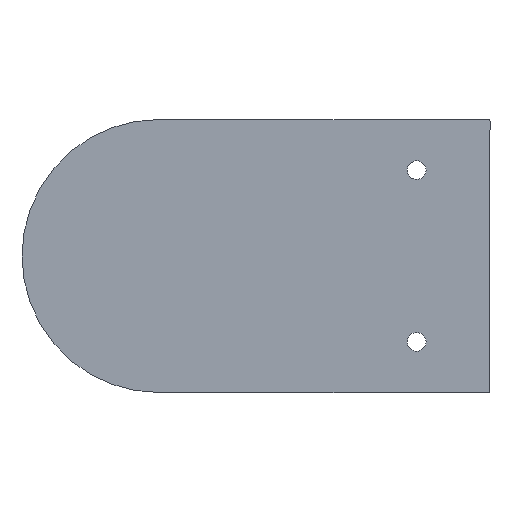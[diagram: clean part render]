
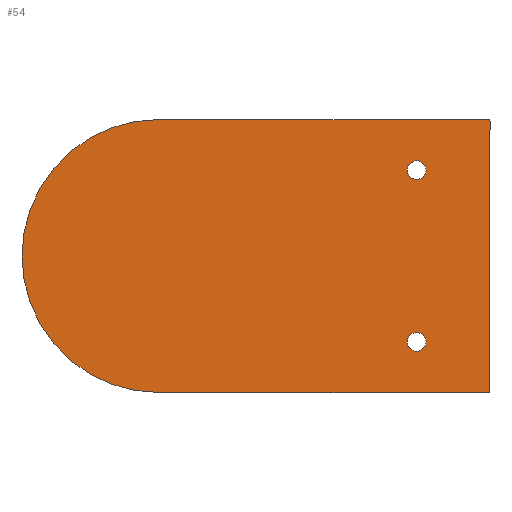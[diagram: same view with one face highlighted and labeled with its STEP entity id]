
A CAD part, left-side view. The second image highlights one B-rep face of the part: STEP entity #54.
In plain terms, the highlighted planar face has unit normal (-1, 0, 0).
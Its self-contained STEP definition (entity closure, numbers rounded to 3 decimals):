
#8 = CARTESIAN_POINT ( 'NONE',  ( 0., 42.5, -17.5 ) ) ;
#9 = VERTEX_POINT ( 'NONE', #72 ) ;
#12 = VERTEX_POINT ( 'NONE', #324 ) ;
#16 = CIRCLE ( 'NONE', #367, 1.2 ) ;
#23 = LINE ( 'NONE', #29, #223 ) ;
#29 = CARTESIAN_POINT ( 'NONE',  ( 0., 0.2, -17.5 ) ) ;
#33 = CARTESIAN_POINT ( 'NONE',  ( 0., 0., 17.3 ) ) ;
#36 = DIRECTION ( 'NONE',  ( 0., 0., -1. ) ) ;
#38 = VERTEX_POINT ( 'NONE', #304 ) ;
#40 = ORIENTED_EDGE ( 'NONE', *, *, #258, .F. ) ;
#42 = FACE_OUTER_BOUND ( 'NONE', #331, .T. ) ;
#48 = DIRECTION ( 'NONE',  ( 1., 0., 0. ) ) ;
#54 = ADVANCED_FACE ( 'NONE', ( #42, #190, #360 ), #107, .F. ) ;
#55 = DIRECTION ( 'NONE',  ( 1., 0., 0. ) ) ;
#56 = CARTESIAN_POINT ( 'NONE',  ( 0., 0.2, -17.3 ) ) ;
#58 = EDGE_CURVE ( 'NONE', #266, #356, #154, .T. ) ;
#63 = CARTESIAN_POINT ( 'NONE',  ( 0., 0.2, -17.5 ) ) ;
#64 = EDGE_CURVE ( 'NONE', #12, #266, #129, .T. ) ;
#66 = DIRECTION ( 'NONE',  ( 0., 0., -1. ) ) ;
#68 = ORIENTED_EDGE ( 'NONE', *, *, #74, .F. ) ;
#72 = CARTESIAN_POINT ( 'NONE',  ( 0., 9.4, -12.203 ) ) ;
#74 = EDGE_CURVE ( 'NONE', #159, #12, #295, .T. ) ;
#76 = DIRECTION ( 'NONE',  ( 1., 0., 0. ) ) ;
#81 = AXIS2_PLACEMENT_3D ( 'NONE', #142, #48, #109 ) ;
#90 = DIRECTION ( 'NONE',  ( 0., 0., -1. ) ) ;
#94 = EDGE_CURVE ( 'NONE', #336, #302, #23, .T. ) ;
#96 = DIRECTION ( 'NONE',  ( 1., 0., 0. ) ) ;
#102 = EDGE_LOOP ( 'NONE', ( #158 ) ) ;
#107 = PLANE ( 'NONE',  #355 ) ;
#108 = VECTOR ( 'NONE', #236, 1000. ) ;
#109 = DIRECTION ( 'NONE',  ( 0., 0., -1. ) ) ;
#124 = DIRECTION ( 'NONE',  ( 1., 0., 0. ) ) ;
#129 = CIRCLE ( 'NONE', #180, 0.2 ) ;
#130 = CIRCLE ( 'NONE', #341, 0.2 ) ;
#142 = CARTESIAN_POINT ( 'NONE',  ( 0., 9.4, 11.003 ) ) ;
#154 = LINE ( 'NONE', #263, #108 ) ;
#158 = ORIENTED_EDGE ( 'NONE', *, *, #255, .T. ) ;
#159 = VERTEX_POINT ( 'NONE', #366 ) ;
#162 = ORIENTED_EDGE ( 'NONE', *, *, #221, .T. ) ;
#176 = EDGE_CURVE ( 'NONE', #38, #38, #240, .T. ) ;
#180 = AXIS2_PLACEMENT_3D ( 'NONE', #351, #96, #66 ) ;
#183 = ORIENTED_EDGE ( 'NONE', *, *, #94, .F. ) ;
#188 = ORIENTED_EDGE ( 'NONE', *, *, #58, .F. ) ;
#190 = FACE_BOUND ( 'NONE', #102, .T. ) ;
#195 = DIRECTION ( 'NONE',  ( 0., -1., 0. ) ) ;
#200 = CARTESIAN_POINT ( 'NONE',  ( 0., 42.5, 0. ) ) ;
#202 = DIRECTION ( 'NONE',  ( 0., 0., -1. ) ) ;
#218 = CARTESIAN_POINT ( 'NONE',  ( 0., 0.2, -17.3 ) ) ;
#221 = EDGE_CURVE ( 'NONE', #159, #302, #319, .T. ) ;
#223 = VECTOR ( 'NONE', #313, 1000. ) ;
#236 = DIRECTION ( 'NONE',  ( 0., 0., -1. ) ) ;
#240 = CIRCLE ( 'NONE', #81, 1.2 ) ;
#241 = CARTESIAN_POINT ( 'NONE',  ( 0., 0., -17.3 ) ) ;
#244 = ORIENTED_EDGE ( 'NONE', *, *, #176, .T. ) ;
#246 = ORIENTED_EDGE ( 'NONE', *, *, #64, .F. ) ;
#255 = EDGE_CURVE ( 'NONE', #9, #9, #16, .T. ) ;
#258 = EDGE_CURVE ( 'NONE', #356, #336, #130, .T. ) ;
#260 = DIRECTION ( 'NONE',  ( 0., 0., -1. ) ) ;
#263 = CARTESIAN_POINT ( 'NONE',  ( 0., 0., -17.3 ) ) ;
#266 = VERTEX_POINT ( 'NONE', #33 ) ;
#274 = CARTESIAN_POINT ( 'NONE',  ( 0., 34.8, 17.5 ) ) ;
#291 = DIRECTION ( 'NONE',  ( -1., 0., 0. ) ) ;
#295 = LINE ( 'NONE', #274, #326 ) ;
#302 = VERTEX_POINT ( 'NONE', #8 ) ;
#303 = AXIS2_PLACEMENT_3D ( 'NONE', #200, #291, #260 ) ;
#304 = CARTESIAN_POINT ( 'NONE',  ( 0., 9.4, 9.803 ) ) ;
#313 = DIRECTION ( 'NONE',  ( 0., 1., 0. ) ) ;
#319 = CIRCLE ( 'NONE', #303, 17.5 ) ;
#324 = CARTESIAN_POINT ( 'NONE',  ( 0., 0.2, 17.5 ) ) ;
#326 = VECTOR ( 'NONE', #195, 1000. ) ;
#331 = EDGE_LOOP ( 'NONE', ( #68, #162, #183, #40, #188, #246 ) ) ;
#333 = EDGE_LOOP ( 'NONE', ( #244 ) ) ;
#336 = VERTEX_POINT ( 'NONE', #63 ) ;
#341 = AXIS2_PLACEMENT_3D ( 'NONE', #56, #124, #202 ) ;
#347 = CARTESIAN_POINT ( 'NONE',  ( 0., 9.4, -11.003 ) ) ;
#351 = CARTESIAN_POINT ( 'NONE',  ( 0., 0.2, 17.3 ) ) ;
#355 = AXIS2_PLACEMENT_3D ( 'NONE', #218, #76, #36 ) ;
#356 = VERTEX_POINT ( 'NONE', #241 ) ;
#360 = FACE_BOUND ( 'NONE', #333, .T. ) ;
#366 = CARTESIAN_POINT ( 'NONE',  ( 0., 42.5, 17.5 ) ) ;
#367 = AXIS2_PLACEMENT_3D ( 'NONE', #347, #55, #90 ) ;
